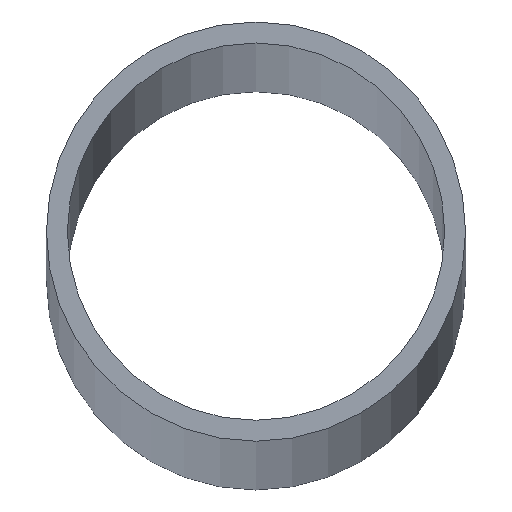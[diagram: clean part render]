
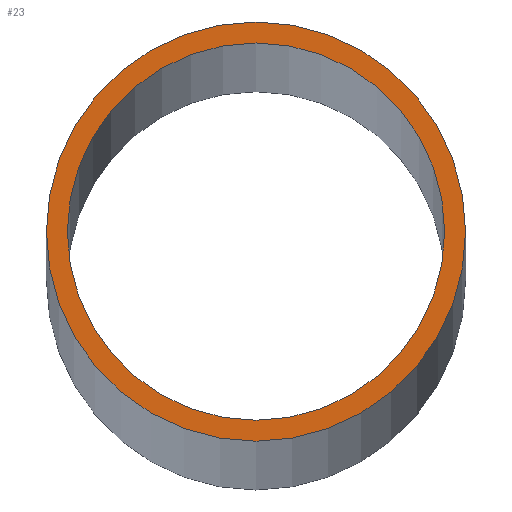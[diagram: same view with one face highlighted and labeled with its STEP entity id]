
A CAD part, top view. The second image highlights one B-rep face of the part: STEP entity #23.
In plain terms, the highlighted planar face has unit normal (0, 0, 1).
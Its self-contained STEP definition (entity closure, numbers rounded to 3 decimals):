
#1 = EDGE_LOOP ( 'NONE', ( #206, #201 ) ) ;
#11 = DIRECTION ( 'NONE',  ( 0., 0., 1. ) ) ;
#12 = CARTESIAN_POINT ( 'NONE',  ( 0., 0., 2000. ) ) ;
#14 = CARTESIAN_POINT ( 'NONE',  ( 13.5, 0., 2000. ) ) ;
#19 = CIRCLE ( 'NONE', #186, 13.5 ) ;
#23 = ADVANCED_FACE ( 'NONE', ( #55, #189 ), #133, .T. ) ;
#32 = AXIS2_PLACEMENT_3D ( 'NONE', #211, #117, #106 ) ;
#35 = DIRECTION ( 'NONE',  ( 0., 0., 1. ) ) ;
#51 = VERTEX_POINT ( 'NONE', #132 ) ;
#54 = EDGE_CURVE ( 'NONE', #213, #51, #19, .T. ) ;
#55 = FACE_OUTER_BOUND ( 'NONE', #166, .T. ) ;
#63 = EDGE_CURVE ( 'NONE', #51, #213, #199, .T. ) ;
#78 = CARTESIAN_POINT ( 'NONE',  ( 0., 0., 2000. ) ) ;
#79 = ORIENTED_EDGE ( 'NONE', *, *, #182, .T. ) ;
#82 = CARTESIAN_POINT ( 'NONE',  ( 0., 0., 2000. ) ) ;
#84 = DIRECTION ( 'NONE',  ( 1., 0., 0. ) ) ;
#88 = CIRCLE ( 'NONE', #205, 15. ) ;
#92 = VERTEX_POINT ( 'NONE', #148 ) ;
#103 = CARTESIAN_POINT ( 'NONE',  ( -15., 0., 2000. ) ) ;
#106 = DIRECTION ( 'NONE',  ( 1., 0., 0. ) ) ;
#117 = DIRECTION ( 'NONE',  ( 0., 0., 1. ) ) ;
#118 = AXIS2_PLACEMENT_3D ( 'NONE', #78, #191, #159 ) ;
#127 = CIRCLE ( 'NONE', #145, 15. ) ;
#132 = CARTESIAN_POINT ( 'NONE',  ( -13.5, 0., 2000. ) ) ;
#133 = PLANE ( 'NONE',  #118 ) ;
#135 = VERTEX_POINT ( 'NONE', #103 ) ;
#137 = DIRECTION ( 'NONE',  ( 0., 0., 1. ) ) ;
#145 = AXIS2_PLACEMENT_3D ( 'NONE', #184, #11, #84 ) ;
#148 = CARTESIAN_POINT ( 'NONE',  ( 15., 0., 2000. ) ) ;
#149 = DIRECTION ( 'NONE',  ( 1., 0., 0. ) ) ;
#151 = DIRECTION ( 'NONE',  ( 1., 0., 0. ) ) ;
#159 = DIRECTION ( 'NONE',  ( 1., 0., 0. ) ) ;
#166 = EDGE_LOOP ( 'NONE', ( #79, #195 ) ) ;
#182 = EDGE_CURVE ( 'NONE', #135, #92, #127, .T. ) ;
#184 = CARTESIAN_POINT ( 'NONE',  ( 0., 0., 2000. ) ) ;
#186 = AXIS2_PLACEMENT_3D ( 'NONE', #82, #35, #151 ) ;
#188 = EDGE_CURVE ( 'NONE', #92, #135, #88, .T. ) ;
#189 = FACE_BOUND ( 'NONE', #1, .T. ) ;
#191 = DIRECTION ( 'NONE',  ( 0., 0., 1. ) ) ;
#195 = ORIENTED_EDGE ( 'NONE', *, *, #188, .T. ) ;
#199 = CIRCLE ( 'NONE', #32, 13.5 ) ;
#201 = ORIENTED_EDGE ( 'NONE', *, *, #54, .F. ) ;
#205 = AXIS2_PLACEMENT_3D ( 'NONE', #12, #137, #149 ) ;
#206 = ORIENTED_EDGE ( 'NONE', *, *, #63, .F. ) ;
#211 = CARTESIAN_POINT ( 'NONE',  ( 0., 0., 2000. ) ) ;
#213 = VERTEX_POINT ( 'NONE', #14 ) ;
